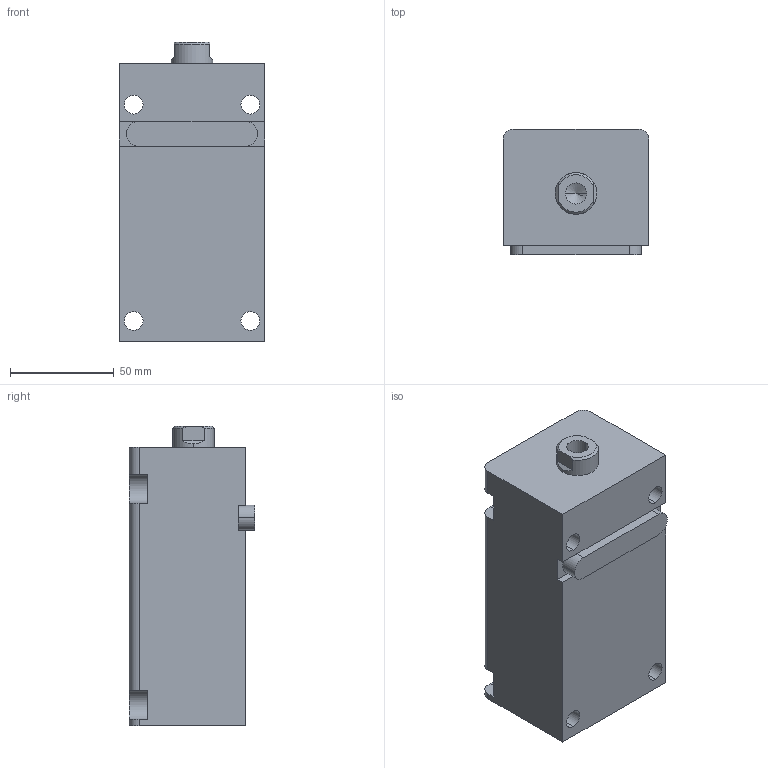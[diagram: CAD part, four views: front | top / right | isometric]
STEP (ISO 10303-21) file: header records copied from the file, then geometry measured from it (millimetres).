
FILE_DESCRIPTION (( 'STEP AP203' ), '1' );
FILE_NAME ('HTB-LA32-80N.STEP', '2019-10-09T06:31:12', ( '微软用户' ), ( '微软中国' ), 'SwSTEP 2.0', 'SolidWorks 2012', '' );
FILE_SCHEMA (( 'CONFIG_CONTROL_DESIGN' ));
Length unit declared in the file: millimetre
Products named in the file (4): HTB-LA32-80掛极; HTB-LA32-80N活塞杆; HTB-LA32-瑩; HTB-LA32-80N
Assembly tree (3 placements, depth 2):
  HTB-LA32-80N
    HTB-LA32-80掛极
    HTB-LA32-80N活塞杆
    HTB-LA32-瑩
Bounding box: 70 x 60.5 x 144 mm (x, y, z)
Volume: 469182.2 mm3; surface area: 73885.3 mm2
Topology: 3 solids, 3 shells, 88 faces, 217 edges, 141 vertices
Faces by surface type: plane 39, cylinder 35, cone 8, torus 6
Entity records: 3053 total; most frequent: DIRECTION 487, CARTESIAN_POINT 478, ORIENTED_EDGE 430, EDGE_CURVE 215, AXIS2_PLACEMENT_3D 186, VERTEX_POINT 141, LINE 115, VECTOR 115
